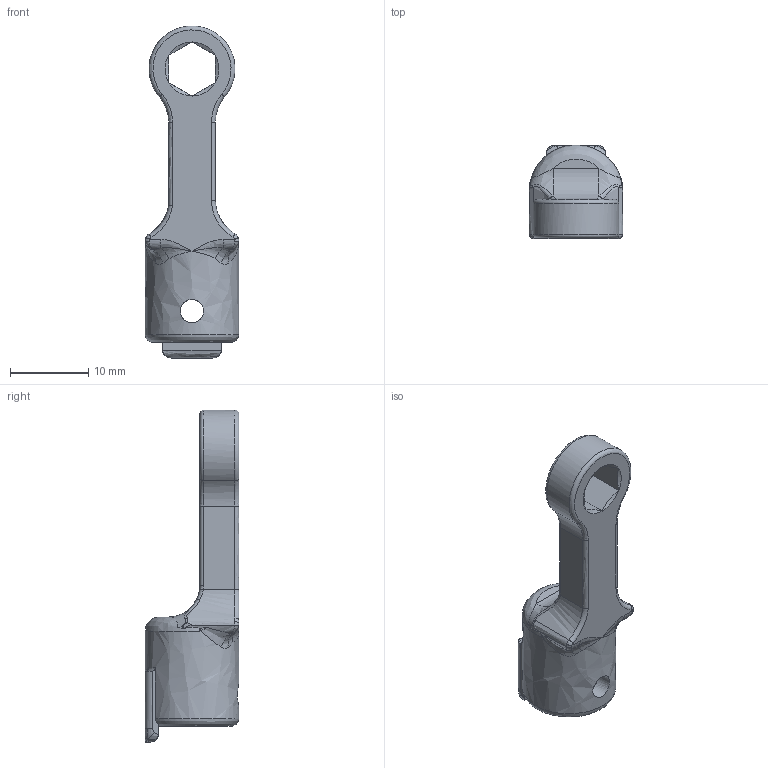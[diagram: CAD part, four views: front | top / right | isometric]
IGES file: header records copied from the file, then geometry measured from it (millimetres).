
Global section: file name: RH8DX6; native system: Autodesk Inventor 2016; preprocessor: unknown; author: Q600; date: 20151110.154703; units: millimetre
Bounding box: 12 x 12 x 42.5 mm (x, y, z)
Volume: 1910 mm3; surface area: 1707.5 mm2
Topology: 1 solids, 1 shells, 119 faces, 323 edges, 194 vertices
Faces by surface type: bspline 119
